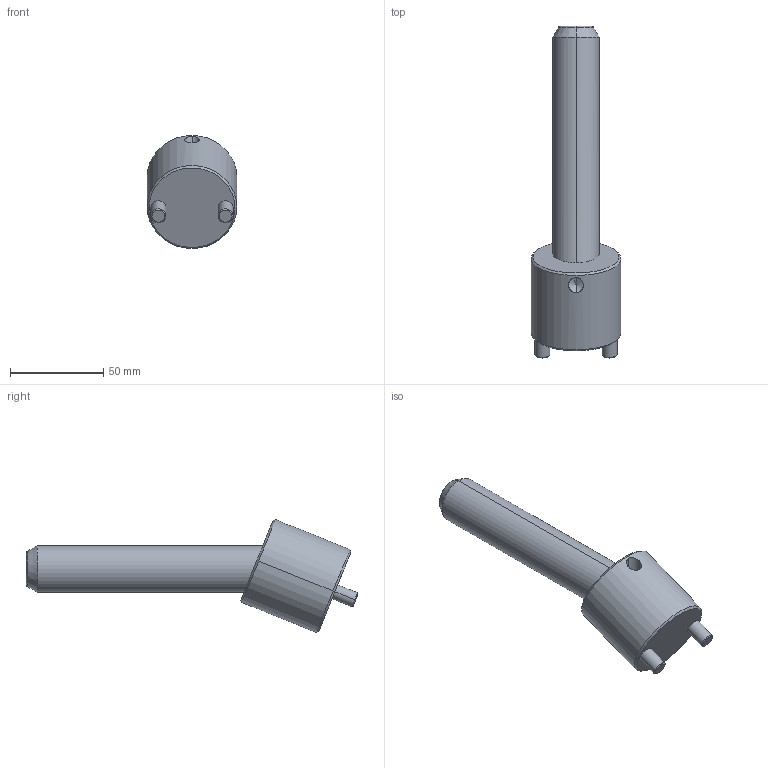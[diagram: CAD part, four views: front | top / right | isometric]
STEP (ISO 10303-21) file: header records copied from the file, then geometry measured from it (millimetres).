
FILE_DESCRIPTION(('CATIA V5 STEP Exchange'),'2;1');
FILE_NAME('C:\Users\Raffaele\Desktop\3D BOLEX\3D FILES CF BOLEX\19-INCLINED ASSEMBLY REF_CI\CI2225125.stp','2019-06-24T06:51:27+00:00',('none'),('none'),'CATIA Version 5 Release 20 GA (IN-10)','CATIA V5 STEP AP203','none');
FILE_SCHEMA(('CONFIG_CONTROL_DESIGN'));
Length unit declared in the file: millimetre
Products named in the file (1): CI2225125
Assembly tree (2 placements, depth 2):
  CI2225125
    #58
    #602
Bounding box: 48 x 178.03 x 60.61 mm (x, y, z)
Volume: 140532.8 mm3; surface area: 27334.5 mm2
Topology: 2 solids, 2 shells, 39 faces, 82 edges, 47 vertices
Faces by surface type: cone 14, cylinder 14, plane 7, torus 4
Entity records: 1530 total; most frequent: CARTESIAN_POINT 671, ORIENTED_EDGE 160, DIRECTION 145, EDGE_CURVE 80, AXIS2_PLACEMENT_3D 72, VERTEX_POINT 47, EDGE_LOOP 43, ADVANCED_FACE 39
